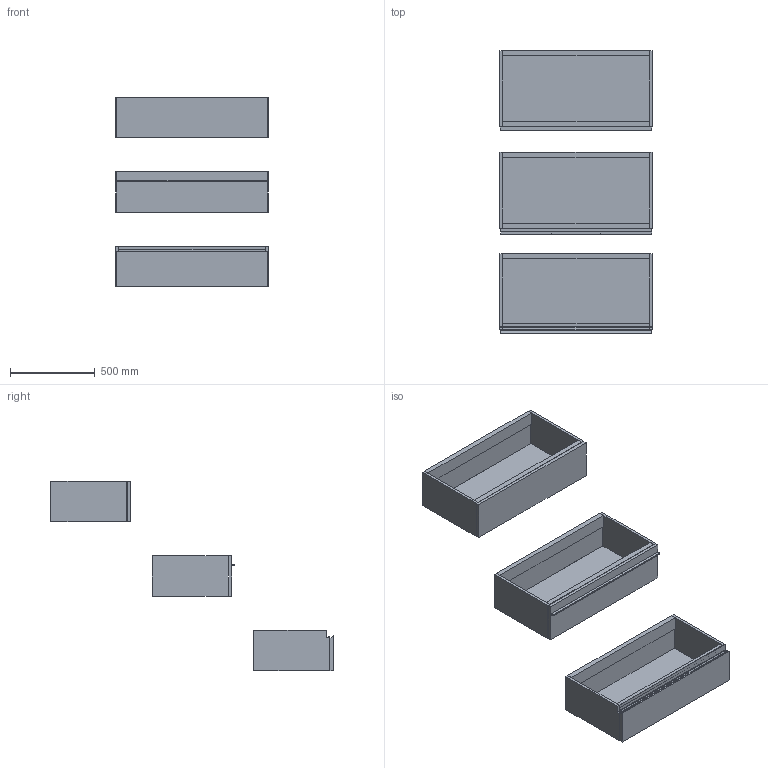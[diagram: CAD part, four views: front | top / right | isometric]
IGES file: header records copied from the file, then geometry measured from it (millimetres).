
Start section: Data from Parasolid IGES Translator 19.0.9, Copyright(c) 2006 Siemens PL M Software. All Rights Reserved.
Global section: file name: noorth-SI-H 24 D 47 W 90_8286.igs; native system: By Siemens PLM Incorporated; preprocessor: XPlus GENERIC/IGES 19.0.9; author: Noname; organization: Noname; date: 20200530.113047; units: metre
Bounding box: 900 x 1669.1 x 1120.01 mm (x, y, z)
Volume: 49834172.4 mm3; surface area: 7316469.1 mm2
Topology: 23 solids, 23 shells, 196 faces, 418 edges, 258 vertices
Faces by surface type: plane 152, extrusion 16, bspline 16, cylinder 12
